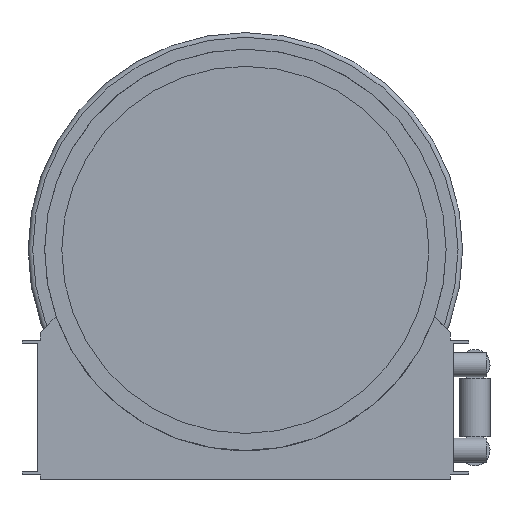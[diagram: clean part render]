
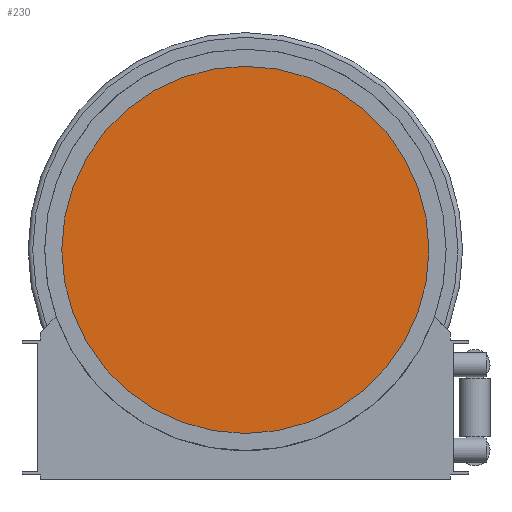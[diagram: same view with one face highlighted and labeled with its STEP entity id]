
A CAD part, left-side view. The second image highlights one B-rep face of the part: STEP entity #230.
In plain terms, the highlighted planar face has unit normal (-1, 0, 0).
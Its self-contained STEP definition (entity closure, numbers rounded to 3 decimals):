
#230 = ADVANCED_FACE( '', ( #556 ), #557, .T. );
#556 = FACE_OUTER_BOUND( '', #987, .T. );
#557 = PLANE( '', #988 );
#987 = EDGE_LOOP( '', ( #1570 ) );
#988 = AXIS2_PLACEMENT_3D( '', #1571, #1572, #1573 );
#1570 = ORIENTED_EDGE( '', *, *, #2216, .T. );
#1571 = CARTESIAN_POINT( '', ( -227.254, 0., 190.5 ) );
#1572 = DIRECTION( '', ( -1., 0., 0. ) );
#1573 = DIRECTION( '', ( 0., 0., 1. ) );
#2216 = EDGE_CURVE( '', #2575, #2575, #2576, .T. );
#2575 = VERTEX_POINT( '', #3102 );
#2576 = CIRCLE( '', #3103, 190.5 );
#3102 = CARTESIAN_POINT( '', ( -227.254, 0., 190.5 ) );
#3103 = AXIS2_PLACEMENT_3D( '', #3898, #3899, #3900 );
#3898 = CARTESIAN_POINT( '', ( -227.254, 0., 0. ) );
#3899 = DIRECTION( '', ( -1., 0., 0. ) );
#3900 = DIRECTION( '', ( 0., 0., 1. ) );
